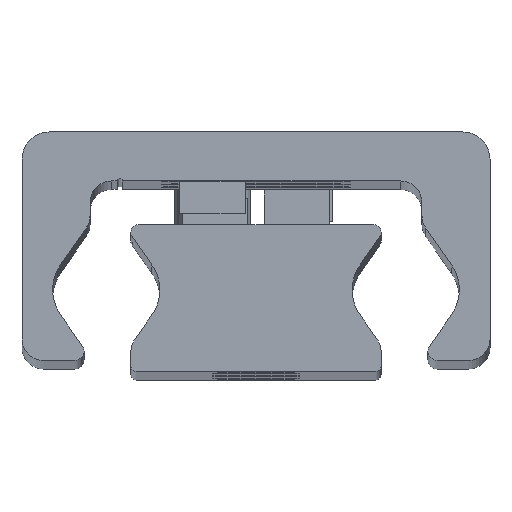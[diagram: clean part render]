
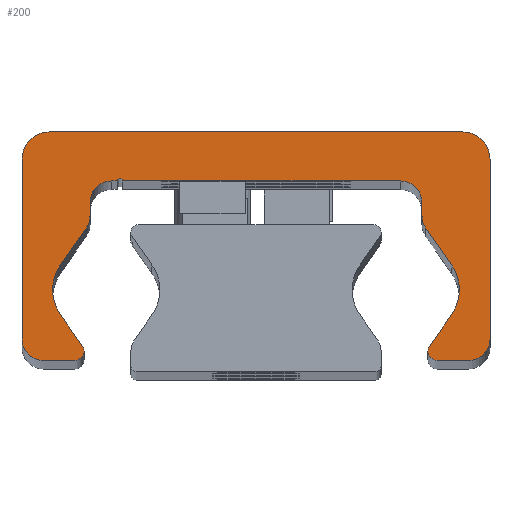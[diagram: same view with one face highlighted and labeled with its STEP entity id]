
A CAD part, top view. The second image highlights one B-rep face of the part: STEP entity #200.
In plain terms, the highlighted planar face has unit normal (0, 0, 1).
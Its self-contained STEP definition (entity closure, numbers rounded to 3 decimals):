
#200=ADVANCED_FACE('',(#502),#503,.T.);
#502=FACE_OUTER_BOUND('',#805,.T.);
#503=PLANE('',#806);
#805=EDGE_LOOP('',(#1850,#1851,#1852,#1853,#1854,#1855,#1856,#1857,#1858,#1859,#1860,#1861,#1862,#1863,#1864,#1865,#1866,#1867,#1868,#1869,#1870,#1871,#1872,#1873,#1874,#1875,#1876,#1877,#1878,#1879));
#806=AXIS2_PLACEMENT_3D('',#1880,#1881,#1882);
#1850=ORIENTED_EDGE('',*,*,#2099,.F.);
#1851=ORIENTED_EDGE('',*,*,#2262,.F.);
#1852=ORIENTED_EDGE('',*,*,#2085,.F.);
#1853=ORIENTED_EDGE('',*,*,#2261,.F.);
#1854=ORIENTED_EDGE('',*,*,#2257,.F.);
#1855=ORIENTED_EDGE('',*,*,#2254,.F.);
#1856=ORIENTED_EDGE('',*,*,#2251,.F.);
#1857=ORIENTED_EDGE('',*,*,#2248,.F.);
#1858=ORIENTED_EDGE('',*,*,#2245,.F.);
#1859=ORIENTED_EDGE('',*,*,#2242,.F.);
#1860=ORIENTED_EDGE('',*,*,#2239,.F.);
#1861=ORIENTED_EDGE('',*,*,#2236,.F.);
#1862=ORIENTED_EDGE('',*,*,#2233,.F.);
#1863=ORIENTED_EDGE('',*,*,#2230,.F.);
#1864=ORIENTED_EDGE('',*,*,#2091,.F.);
#1865=ORIENTED_EDGE('',*,*,#2228,.F.);
#1866=ORIENTED_EDGE('',*,*,#2093,.F.);
#1867=ORIENTED_EDGE('',*,*,#2227,.F.);
#1868=ORIENTED_EDGE('',*,*,#2223,.F.);
#1869=ORIENTED_EDGE('',*,*,#2220,.F.);
#1870=ORIENTED_EDGE('',*,*,#2217,.F.);
#1871=ORIENTED_EDGE('',*,*,#2214,.F.);
#1872=ORIENTED_EDGE('',*,*,#2211,.F.);
#1873=ORIENTED_EDGE('',*,*,#2208,.F.);
#1874=ORIENTED_EDGE('',*,*,#2205,.F.);
#1875=ORIENTED_EDGE('',*,*,#2202,.F.);
#1876=ORIENTED_EDGE('',*,*,#2199,.F.);
#1877=ORIENTED_EDGE('',*,*,#2196,.F.);
#1878=ORIENTED_EDGE('',*,*,#2193,.F.);
#1879=ORIENTED_EDGE('',*,*,#2190,.F.);
#1880=CARTESIAN_POINT('',(-0.023,14.187,450.0));
#1881=DIRECTION('',(0.0,0.0,1.0));
#1882=DIRECTION('',(1.0,0.0,0.0));
#2085=EDGE_CURVE('',#2536,#2539,#2540,.T.);
#2091=EDGE_CURVE('',#2549,#2545,#2551,.T.);
#2093=EDGE_CURVE('',#2552,#2555,#2556,.T.);
#2099=EDGE_CURVE('',#2565,#2561,#2567,.T.);
#2190=EDGE_CURVE('',#2561,#2714,#2715,.T.);
#2193=EDGE_CURVE('',#2714,#2719,#2720,.T.);
#2196=EDGE_CURVE('',#2719,#2724,#2725,.T.);
#2199=EDGE_CURVE('',#2724,#2729,#2730,.T.);
#2202=EDGE_CURVE('',#2729,#2734,#2735,.T.);
#2205=EDGE_CURVE('',#2734,#2739,#2740,.T.);
#2208=EDGE_CURVE('',#2739,#2744,#2745,.T.);
#2211=EDGE_CURVE('',#2744,#2749,#2750,.T.);
#2214=EDGE_CURVE('',#2749,#2754,#2755,.T.);
#2217=EDGE_CURVE('',#2754,#2759,#2760,.T.);
#2220=EDGE_CURVE('',#2759,#2764,#2765,.T.);
#2223=EDGE_CURVE('',#2764,#2769,#2770,.T.);
#2227=EDGE_CURVE('',#2769,#2552,#2775,.T.);
#2228=EDGE_CURVE('',#2555,#2549,#2776,.T.);
#2230=EDGE_CURVE('',#2545,#2778,#2779,.T.);
#2233=EDGE_CURVE('',#2778,#2783,#2784,.T.);
#2236=EDGE_CURVE('',#2783,#2788,#2789,.T.);
#2239=EDGE_CURVE('',#2788,#2793,#2794,.T.);
#2242=EDGE_CURVE('',#2793,#2798,#2799,.T.);
#2245=EDGE_CURVE('',#2798,#2803,#2804,.T.);
#2248=EDGE_CURVE('',#2803,#2808,#2809,.T.);
#2251=EDGE_CURVE('',#2808,#2813,#2814,.T.);
#2254=EDGE_CURVE('',#2813,#2818,#2819,.T.);
#2257=EDGE_CURVE('',#2818,#2823,#2824,.T.);
#2261=EDGE_CURVE('',#2823,#2536,#2829,.T.);
#2262=EDGE_CURVE('',#2539,#2565,#2830,.T.);
#2536=VERTEX_POINT('',#3200);
#2539=VERTEX_POINT('',#3204);
#2540=CIRCLE('',#3205,0.85);
#2545=VERTEX_POINT('',#3211);
#2549=VERTEX_POINT('',#3216);
#2551=CIRCLE('',#3219,0.85);
#2552=VERTEX_POINT('',#3220);
#2555=VERTEX_POINT('',#3224);
#2556=CIRCLE('',#3225,4.);
#2561=VERTEX_POINT('',#3231);
#2565=VERTEX_POINT('',#3236);
#2567=CIRCLE('',#3239,4.);
#2714=VERTEX_POINT('',#3436);
#2715=CIRCLE('',#3437,4.);
#2719=VERTEX_POINT('',#3442);
#2720=LINE('',#3443,#3444);
#2724=VERTEX_POINT('',#3450);
#2725=CIRCLE('',#3451,2.);
#2729=VERTEX_POINT('',#3456);
#2730=LINE('',#3457,#3458);
#2734=VERTEX_POINT('',#3464);
#2735=CIRCLE('',#3465,2.0);
#2739=VERTEX_POINT('',#3470);
#2740=LINE('',#3471,#3472);
#2744=VERTEX_POINT('',#3478);
#2745=CIRCLE('',#3479,0.25);
#2749=VERTEX_POINT('',#3484);
#2750=LINE('',#3485,#3486);
#2754=VERTEX_POINT('',#3492);
#2755=CIRCLE('',#3493,2.0);
#2759=VERTEX_POINT('',#3498);
#2760=LINE('',#3499,#3500);
#2764=VERTEX_POINT('',#3506);
#2765=CIRCLE('',#3507,2.0);
#2769=VERTEX_POINT('',#3512);
#2770=LINE('',#3513,#3514);
#2775=CIRCLE('',#3521,4.);
#2776=LINE('',#3522,#3523);
#2778=VERTEX_POINT('',#3526);
#2779=CIRCLE('',#3527,0.85);
#2783=VERTEX_POINT('',#3532);
#2784=LINE('',#3533,#3534);
#2788=VERTEX_POINT('',#3540);
#2789=CIRCLE('',#3541,2.);
#2793=VERTEX_POINT('',#3546);
#2794=LINE('',#3547,#3548);
#2798=VERTEX_POINT('',#3554);
#2799=CIRCLE('',#3555,2.5);
#2803=VERTEX_POINT('',#3560);
#2804=LINE('',#3561,#3562);
#2808=VERTEX_POINT('',#3568);
#2809=CIRCLE('',#3569,2.5);
#2813=VERTEX_POINT('',#3574);
#2814=LINE('',#3575,#3576);
#2818=VERTEX_POINT('',#3582);
#2819=CIRCLE('',#3583,2.);
#2823=VERTEX_POINT('',#3588);
#2824=LINE('',#3589,#3590);
#2829=CIRCLE('',#3597,0.85);
#2830=LINE('',#3598,#3599);
#3200=CARTESIAN_POINT('',(15.8,1.859,450.0));
#3204=CARTESIAN_POINT('',(15.922,2.298,450.0));
#3205=AXIS2_PLACEMENT_3D('',#3915,#3916,#3917);
#3211=CARTESIAN_POINT('',(-15.8,1.859,450.0));
#3216=CARTESIAN_POINT('',(-15.922,2.298,450.0));
#3219=AXIS2_PLACEMENT_3D('',#3927,#3928,#3929);
#3220=CARTESIAN_POINT('',(-18.688,7.509,450.0));
#3224=CARTESIAN_POINT('',(-17.964,5.214,450.0));
#3225=AXIS2_PLACEMENT_3D('',#3931,#3932,#3933);
#3231=CARTESIAN_POINT('',(18.688,7.509,450.0));
#3236=CARTESIAN_POINT('',(17.964,5.214,450.0));
#3239=AXIS2_PLACEMENT_3D('',#3943,#3944,#3945);
#3436=CARTESIAN_POINT('',(17.964,9.803,450.0));
#3437=AXIS2_PLACEMENT_3D('',#4116,#4117,#4118);
#3442=CARTESIAN_POINT('',(15.612,13.163,450.0));
#3443=CARTESIAN_POINT('',(15.612,13.163,450.0));
#3444=VECTOR('',#4123,1.0);
#3450=CARTESIAN_POINT('',(15.25,14.31,450.0));
#3451=AXIS2_PLACEMENT_3D('',#4126,#4127,#4128);
#3456=CARTESIAN_POINT('',(15.25,15.509,450.0));
#3457=CARTESIAN_POINT('',(15.25,15.509,450.0));
#3458=VECTOR('',#4133,1.0);
#3464=CARTESIAN_POINT('',(13.25,17.509,450.0));
#3465=AXIS2_PLACEMENT_3D('',#4136,#4137,#4138);
#3470=CARTESIAN_POINT('',(-12.25,17.509,450.0));
#3471=CARTESIAN_POINT('',(-12.25,17.509,450.0));
#3472=VECTOR('',#4143,1.0);
#3478=CARTESIAN_POINT('',(-12.75,17.509,450.0));
#3479=AXIS2_PLACEMENT_3D('',#4146,#4147,#4148);
#3484=CARTESIAN_POINT('',(-13.25,17.509,450.0));
#3485=CARTESIAN_POINT('',(-13.25,17.509,450.0));
#3486=VECTOR('',#4153,1.0);
#3492=CARTESIAN_POINT('',(-15.25,15.509,450.0));
#3493=AXIS2_PLACEMENT_3D('',#4156,#4157,#4158);
#3498=CARTESIAN_POINT('',(-15.25,14.31,450.0));
#3499=CARTESIAN_POINT('',(-15.25,14.31,450.0));
#3500=VECTOR('',#4163,1.0);
#3506=CARTESIAN_POINT('',(-15.612,13.163,450.0));
#3507=AXIS2_PLACEMENT_3D('',#4166,#4167,#4168);
#3512=CARTESIAN_POINT('',(-17.964,9.803,450.0));
#3513=CARTESIAN_POINT('',(-17.964,9.803,450.0));
#3514=VECTOR('',#4173,1.0);
#3521=AXIS2_PLACEMENT_3D('',#4179,#4180,#4181);
#3522=CARTESIAN_POINT('',(-15.922,2.298,450.0));
#3523=VECTOR('',#4182,1.0);
#3526=CARTESIAN_POINT('',(-16.65,1.009,450.0));
#3527=AXIS2_PLACEMENT_3D('',#4184,#4185,#4186);
#3532=CARTESIAN_POINT('',(-19.5,1.009,450.0));
#3533=CARTESIAN_POINT('',(-19.5,1.009,450.0));
#3534=VECTOR('',#4191,1.0);
#3540=CARTESIAN_POINT('',(-21.5,3.009,450.0));
#3541=AXIS2_PLACEMENT_3D('',#4194,#4195,#4196);
#3546=CARTESIAN_POINT('',(-21.5,19.509,450.0));
#3547=CARTESIAN_POINT('',(-21.5,19.509,450.0));
#3548=VECTOR('',#4201,1.0);
#3554=CARTESIAN_POINT('',(-19.0,22.009,450.0));
#3555=AXIS2_PLACEMENT_3D('',#4204,#4205,#4206);
#3560=CARTESIAN_POINT('',(19.0,22.009,450.0));
#3561=CARTESIAN_POINT('',(19.0,22.009,450.0));
#3562=VECTOR('',#4211,1.0);
#3568=CARTESIAN_POINT('',(21.5,19.509,450.0));
#3569=AXIS2_PLACEMENT_3D('',#4214,#4215,#4216);
#3574=CARTESIAN_POINT('',(21.5,3.009,450.0));
#3575=CARTESIAN_POINT('',(21.5,3.009,450.0));
#3576=VECTOR('',#4221,1.0);
#3582=CARTESIAN_POINT('',(19.5,1.009,450.0));
#3583=AXIS2_PLACEMENT_3D('',#4224,#4225,#4226);
#3588=CARTESIAN_POINT('',(16.65,1.009,450.0));
#3589=CARTESIAN_POINT('',(16.65,1.009,450.0));
#3590=VECTOR('',#4231,1.0);
#3597=AXIS2_PLACEMENT_3D('',#4237,#4238,#4239);
#3598=CARTESIAN_POINT('',(17.964,5.214,450.0));
#3599=VECTOR('',#4240,1.0);
#3915=CARTESIAN_POINT('',(16.65,1.859,450.0));
#3916=DIRECTION('',(0.0,0.0,-1.0));
#3917=DIRECTION('',(1.0,0.0,0.0));
#3927=CARTESIAN_POINT('',(-16.65,1.859,450.0));
#3928=DIRECTION('',(0.0,0.0,-1.0));
#3929=DIRECTION('',(1.0,0.0,0.0));
#3931=CARTESIAN_POINT('',(-14.688,7.509,450.0));
#3932=DIRECTION('',(0.0,0.0,1.0));
#3933=DIRECTION('',(1.0,0.0,0.0));
#3943=CARTESIAN_POINT('',(14.688,7.509,450.0));
#3944=DIRECTION('',(0.0,0.0,1.0));
#3945=DIRECTION('',(1.0,0.0,0.0));
#4116=CARTESIAN_POINT('',(14.688,7.509,450.0));
#4117=DIRECTION('',(0.0,0.0,1.0));
#4118=DIRECTION('',(1.0,0.0,0.0));
#4123=DIRECTION('',(-0.574,0.819,0.0));
#4126=CARTESIAN_POINT('',(17.25,14.31,450.0));
#4127=DIRECTION('',(0.0,0.0,-1.0));
#4128=DIRECTION('',(1.0,0.0,0.0));
#4133=DIRECTION('',(0.0,1.0,0.0));
#4136=CARTESIAN_POINT('',(13.25,15.509,450.0));
#4137=DIRECTION('',(0.0,0.0,1.0));
#4138=DIRECTION('',(1.0,0.0,0.0));
#4143=DIRECTION('',(-1.0,-0.0,-0.0));
#4146=CARTESIAN_POINT('',(-12.5,17.509,450.0));
#4147=DIRECTION('',(0.0,0.0,1.0));
#4148=DIRECTION('',(1.0,0.0,0.0));
#4153=DIRECTION('',(-1.0,-0.0,-0.0));
#4156=CARTESIAN_POINT('',(-13.25,15.509,450.0));
#4157=DIRECTION('',(0.0,0.0,1.0));
#4158=DIRECTION('',(1.0,0.0,0.0));
#4163=DIRECTION('',(-0.0,-1.0,-0.0));
#4166=CARTESIAN_POINT('',(-17.25,14.31,450.0));
#4167=DIRECTION('',(0.0,0.0,-1.0));
#4168=DIRECTION('',(1.0,0.0,0.0));
#4173=DIRECTION('',(-0.574,-0.819,-0.0));
#4179=CARTESIAN_POINT('',(-14.688,7.509,450.0));
#4180=DIRECTION('',(0.0,0.0,1.0));
#4181=DIRECTION('',(1.0,0.0,0.0));
#4182=DIRECTION('',(0.574,-0.819,0.0));
#4184=CARTESIAN_POINT('',(-16.65,1.859,450.0));
#4185=DIRECTION('',(0.0,0.0,-1.0));
#4186=DIRECTION('',(1.0,0.0,0.0));
#4191=DIRECTION('',(-1.0,-0.0,-0.0));
#4194=CARTESIAN_POINT('',(-19.5,3.009,450.0));
#4195=DIRECTION('',(0.0,0.0,-1.0));
#4196=DIRECTION('',(1.0,0.0,0.0));
#4201=DIRECTION('',(0.0,1.0,0.0));
#4204=CARTESIAN_POINT('',(-19.0,19.509,450.0));
#4205=DIRECTION('',(0.0,0.0,-1.0));
#4206=DIRECTION('',(1.0,0.0,0.0));
#4211=DIRECTION('',(1.0,0.0,0.0));
#4214=CARTESIAN_POINT('',(19.0,19.509,450.0));
#4215=DIRECTION('',(0.0,0.0,-1.0));
#4216=DIRECTION('',(1.0,0.0,0.0));
#4221=DIRECTION('',(-0.0,-1.0,-0.0));
#4224=CARTESIAN_POINT('',(19.5,3.009,450.0));
#4225=DIRECTION('',(0.0,0.0,-1.0));
#4226=DIRECTION('',(1.0,0.0,0.0));
#4231=DIRECTION('',(-1.0,-0.0,-0.0));
#4237=CARTESIAN_POINT('',(16.65,1.859,450.0));
#4238=DIRECTION('',(0.0,0.0,-1.0));
#4239=DIRECTION('',(1.0,0.0,0.0));
#4240=DIRECTION('',(0.574,0.819,0.0));
